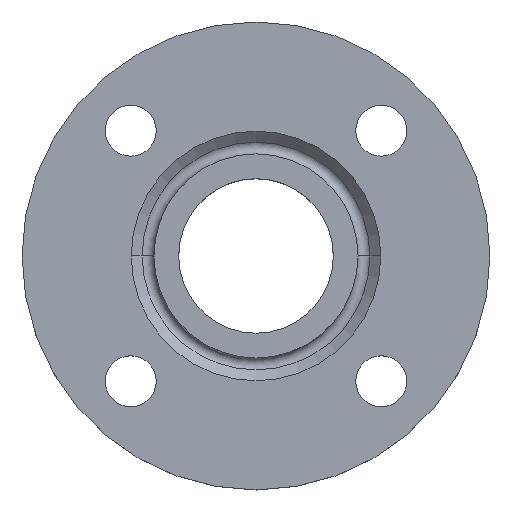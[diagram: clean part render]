
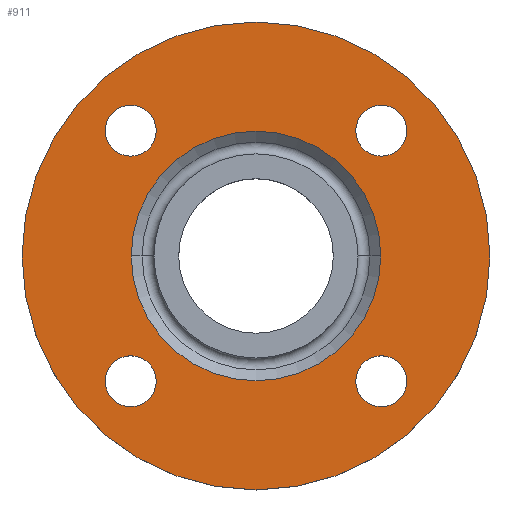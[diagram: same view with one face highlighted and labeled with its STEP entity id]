
A CAD part, top view. The second image highlights one B-rep face of the part: STEP entity #911.
In plain terms, the highlighted planar face has unit normal (0, 0, 1).
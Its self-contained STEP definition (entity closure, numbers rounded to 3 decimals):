
#7 = CARTESIAN_POINT ( 'NONE',  ( 53.194, 44.194, -2. ) ) ;
#24 = CARTESIAN_POINT ( 'NONE',  ( -53.194, 44.194, -2. ) ) ;
#56 = EDGE_CURVE ( 'NONE', #718, #733, #525, .T. ) ;
#65 = CARTESIAN_POINT ( 'NONE',  ( 53.194, -44.194, -2. ) ) ;
#67 = CARTESIAN_POINT ( 'NONE',  ( -35.194, 44.194, -2. ) ) ;
#70 = DIRECTION ( 'NONE',  ( 0., 0., -1. ) ) ;
#96 = DIRECTION ( 'NONE',  ( -1., 0., 0. ) ) ;
#97 = DIRECTION ( 'NONE',  ( 0., 0., -1. ) ) ;
#105 = DIRECTION ( 'NONE',  ( 1., 0., 0. ) ) ;
#107 = CARTESIAN_POINT ( 'NONE',  ( 0., 0., -2. ) ) ;
#108 = AXIS2_PLACEMENT_3D ( 'NONE', #408, #421, #422 ) ;
#114 = CARTESIAN_POINT ( 'NONE',  ( -44.194, -44.194, -2. ) ) ;
#115 = CIRCLE ( 'NONE', #108, 9. ) ;
#129 = DIRECTION ( 'NONE',  ( 0., 0., -1. ) ) ;
#130 = DIRECTION ( 'NONE',  ( 1., 0., 0. ) ) ;
#131 = DIRECTION ( 'NONE',  ( 0., 0., -1. ) ) ;
#133 = CARTESIAN_POINT ( 'NONE',  ( 44.194, -44.194, -2. ) ) ;
#145 = AXIS2_PLACEMENT_3D ( 'NONE', #332, #329, #328 ) ;
#148 = CIRCLE ( 'NONE', #145, 9. ) ;
#169 = AXIS2_PLACEMENT_3D ( 'NONE', #317, #316, #315 ) ;
#184 = CIRCLE ( 'NONE', #169, 44. ) ;
#188 = AXIS2_PLACEMENT_3D ( 'NONE', #796, #798, #799 ) ;
#189 = DIRECTION ( 'NONE',  ( -1., 0., 0. ) ) ;
#191 = DIRECTION ( 'NONE',  ( 0., 0., -1. ) ) ;
#192 = CIRCLE ( 'NONE', #324, 9. ) ;
#210 = EDGE_CURVE ( 'NONE', #702, #707, #518, .T. ) ;
#230 = EDGE_CURVE ( 'NONE', #706, #741, #250, .T. ) ;
#232 = CARTESIAN_POINT ( 'NONE',  ( 0., 0., -2. ) ) ;
#238 = AXIS2_PLACEMENT_3D ( 'NONE', #917, #916, #910 ) ;
#250 = CIRCLE ( 'NONE', #458, 9. ) ;
#273 = EDGE_CURVE ( 'NONE', #707, #702, #192, .T. ) ;
#309 = CIRCLE ( 'NONE', #342, 9. ) ;
#315 = DIRECTION ( 'NONE',  ( -1., 0., 0. ) ) ;
#316 = DIRECTION ( 'NONE',  ( 0., 0., -1. ) ) ;
#317 = CARTESIAN_POINT ( 'NONE',  ( 0., 0., -2. ) ) ;
#324 = AXIS2_PLACEMENT_3D ( 'NONE', #882, #883, #884 ) ;
#327 = CARTESIAN_POINT ( 'NONE',  ( 35.194, -44.194, -2. ) ) ;
#328 = DIRECTION ( 'NONE',  ( 1., 0., 0. ) ) ;
#329 = DIRECTION ( 'NONE',  ( 0., 0., -1. ) ) ;
#332 = CARTESIAN_POINT ( 'NONE',  ( 44.194, 44.194, -2. ) ) ;
#339 = CARTESIAN_POINT ( 'NONE',  ( -53.194, -44.194, -2. ) ) ;
#341 = CARTESIAN_POINT ( 'NONE',  ( -82.5, 0., -2. ) ) ;
#342 = AXIS2_PLACEMENT_3D ( 'NONE', #114, #70, #105 ) ;
#344 = CARTESIAN_POINT ( 'NONE',  ( 44., 0., -2. ) ) ;
#351 = AXIS2_PLACEMENT_3D ( 'NONE', #107, #97, #96 ) ;
#354 = AXIS2_PLACEMENT_3D ( 'NONE', #133, #131, #130 ) ;
#361 = CARTESIAN_POINT ( 'NONE',  ( -35.194, -44.194, -2. ) ) ;
#368 = CIRCLE ( 'NONE', #354, 9. ) ;
#404 = CARTESIAN_POINT ( 'NONE',  ( 82.5, 0., -2. ) ) ;
#407 = CARTESIAN_POINT ( 'NONE',  ( -44., 0., -2. ) ) ;
#408 = CARTESIAN_POINT ( 'NONE',  ( 44.194, 44.194, -2. ) ) ;
#411 = CARTESIAN_POINT ( 'NONE',  ( 35.194, 44.194, -2. ) ) ;
#421 = DIRECTION ( 'NONE',  ( 0., 0., -1. ) ) ;
#422 = DIRECTION ( 'NONE',  ( 1., 0., 0. ) ) ;
#423 = CIRCLE ( 'NONE', #567, 82.5 ) ;
#432 = CIRCLE ( 'NONE', #351, 44. ) ;
#436 = CARTESIAN_POINT ( 'NONE',  ( 0., 0., -2. ) ) ;
#443 = DIRECTION ( 'NONE',  ( -1., 0., 0. ) ) ;
#453 = AXIS2_PLACEMENT_3D ( 'NONE', #232, #191, #189 ) ;
#458 = AXIS2_PLACEMENT_3D ( 'NONE', #858, #859, #860 ) ;
#466 = CIRCLE ( 'NONE', #453, 82.5 ) ;
#485 = VERTEX_POINT ( 'NONE', #404 ) ;
#489 = VERTEX_POINT ( 'NONE', #407 ) ;
#491 = EDGE_CURVE ( 'NONE', #673, #508, #115, .T. ) ;
#494 = AXIS2_PLACEMENT_3D ( 'NONE', #846, #847, #848 ) ;
#508 = VERTEX_POINT ( 'NONE', #411 ) ;
#515 = EDGE_CURVE ( 'NONE', #733, #718, #309, .T. ) ;
#518 = CIRCLE ( 'NONE', #494, 9. ) ;
#525 = CIRCLE ( 'NONE', #188, 9. ) ;
#567 = AXIS2_PLACEMENT_3D ( 'NONE', #436, #129, #443 ) ;
#608 = EDGE_CURVE ( 'NONE', #485, #726, #423, .T. ) ;
#620 = ORIENTED_EDGE ( 'NONE', *, *, #230, .T. ) ;
#621 = ORIENTED_EDGE ( 'NONE', *, *, #888, .T. ) ;
#622 = ORIENTED_EDGE ( 'NONE', *, *, #56, .T. ) ;
#624 = ORIENTED_EDGE ( 'NONE', *, *, #515, .T. ) ;
#625 = ORIENTED_EDGE ( 'NONE', *, *, #273, .T. ) ;
#626 = ORIENTED_EDGE ( 'NONE', *, *, #210, .T. ) ;
#628 = ORIENTED_EDGE ( 'NONE', *, *, #491, .T. ) ;
#629 = ORIENTED_EDGE ( 'NONE', *, *, #739, .T. ) ;
#630 = ORIENTED_EDGE ( 'NONE', *, *, #750, .T. ) ;
#632 = ORIENTED_EDGE ( 'NONE', *, *, #902, .T. ) ;
#633 = ORIENTED_EDGE ( 'NONE', *, *, #608, .F. ) ;
#634 = ORIENTED_EDGE ( 'NONE', *, *, #826, .F. ) ;
#673 = VERTEX_POINT ( 'NONE', #7 ) ;
#702 = VERTEX_POINT ( 'NONE', #24 ) ;
#706 = VERTEX_POINT ( 'NONE', #65 ) ;
#707 = VERTEX_POINT ( 'NONE', #67 ) ;
#718 = VERTEX_POINT ( 'NONE', #361 ) ;
#725 = VERTEX_POINT ( 'NONE', #344 ) ;
#726 = VERTEX_POINT ( 'NONE', #341 ) ;
#730 = EDGE_LOOP ( 'NONE', ( #622, #624 ) ) ;
#733 = VERTEX_POINT ( 'NONE', #339 ) ;
#737 = EDGE_LOOP ( 'NONE', ( #630, #632 ) ) ;
#739 = EDGE_CURVE ( 'NONE', #508, #673, #148, .T. ) ;
#741 = VERTEX_POINT ( 'NONE', #327 ) ;
#745 = EDGE_LOOP ( 'NONE', ( #628, #629 ) ) ;
#750 = EDGE_CURVE ( 'NONE', #725, #489, #184, .T. ) ;
#752 = EDGE_LOOP ( 'NONE', ( #633, #634 ) ) ;
#753 = EDGE_LOOP ( 'NONE', ( #625, #626 ) ) ;
#778 = EDGE_LOOP ( 'NONE', ( #620, #621 ) ) ;
#796 = CARTESIAN_POINT ( 'NONE',  ( -44.194, -44.194, -2. ) ) ;
#798 = DIRECTION ( 'NONE',  ( 0., 0., -1. ) ) ;
#799 = DIRECTION ( 'NONE',  ( 1., 0., 0. ) ) ;
#826 = EDGE_CURVE ( 'NONE', #726, #485, #466, .T. ) ;
#846 = CARTESIAN_POINT ( 'NONE',  ( -44.194, 44.194, -2. ) ) ;
#847 = DIRECTION ( 'NONE',  ( 0., 0., -1. ) ) ;
#848 = DIRECTION ( 'NONE',  ( 1., 0., 0. ) ) ;
#858 = CARTESIAN_POINT ( 'NONE',  ( 44.194, -44.194, -2. ) ) ;
#859 = DIRECTION ( 'NONE',  ( 0., 0., -1. ) ) ;
#860 = DIRECTION ( 'NONE',  ( 1., 0., 0. ) ) ;
#882 = CARTESIAN_POINT ( 'NONE',  ( -44.194, 44.194, -2. ) ) ;
#883 = DIRECTION ( 'NONE',  ( 0., 0., -1. ) ) ;
#884 = DIRECTION ( 'NONE',  ( 1., 0., 0. ) ) ;
#888 = EDGE_CURVE ( 'NONE', #741, #706, #368, .T. ) ;
#902 = EDGE_CURVE ( 'NONE', #489, #725, #432, .T. ) ;
#910 = DIRECTION ( 'NONE',  ( 1., 0., 0. ) ) ;
#911 = ADVANCED_FACE ( 'NONE', ( #924, #923, #922, #921, #920, #919 ), #918, .T. ) ;
#916 = DIRECTION ( 'NONE',  ( 0., 0., 1. ) ) ;
#917 = CARTESIAN_POINT ( 'NONE',  ( 82.5, 0., -2. ) ) ;
#918 = PLANE ( 'NONE',  #238 ) ;
#919 = FACE_OUTER_BOUND ( 'NONE', #752, .T. ) ;
#920 = FACE_BOUND ( 'NONE', #737, .T. ) ;
#921 = FACE_BOUND ( 'NONE', #745, .T. ) ;
#922 = FACE_BOUND ( 'NONE', #753, .T. ) ;
#923 = FACE_BOUND ( 'NONE', #730, .T. ) ;
#924 = FACE_BOUND ( 'NONE', #778, .T. ) ;
